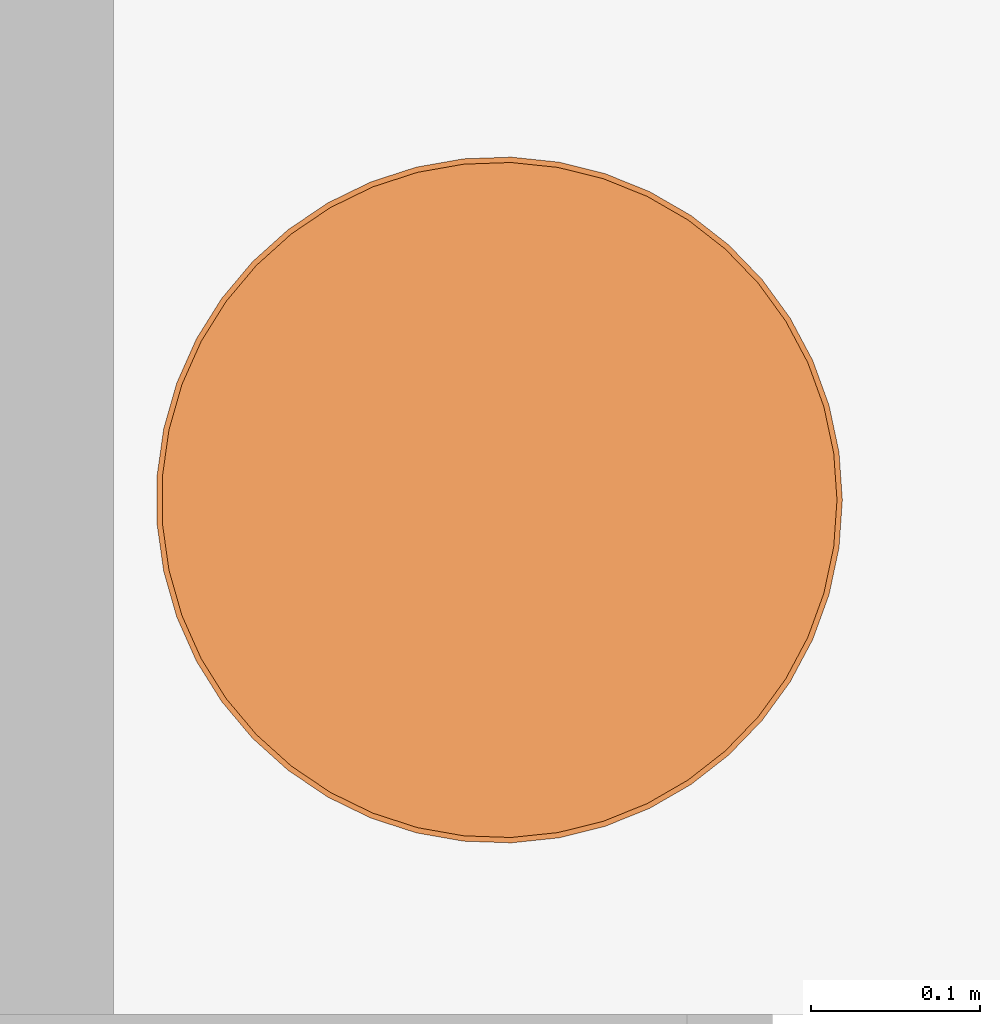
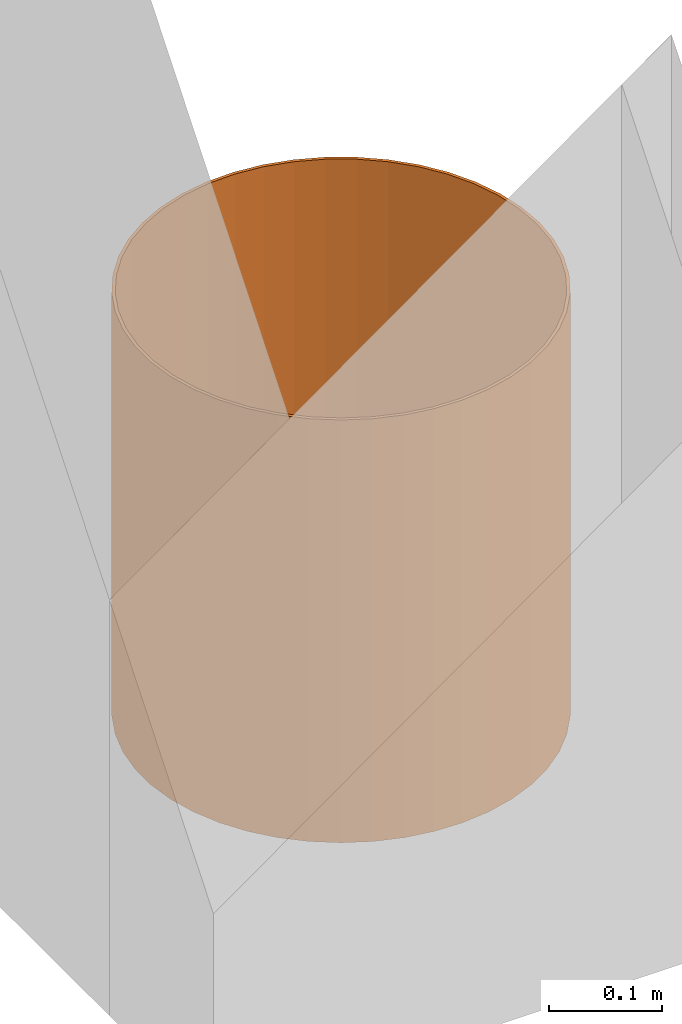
# One storey, part 100 of 142: 1 proxy.
"""IFC2X3 building model written with IfcOpenShell, lengths in feet."""

from ifc_helpers import new_model, entity, si_unit, converted_unit, derived_unit, direction, frame, frame_2d, origin, place, context, subcontext, project, spatial, circle, hollow_circle, extrude, source, transform, mapped, type_object, type_shapes, element, save


model = new_model("IFC2X3")

# Units and contexts
model_context = context("Model", 3, precision=0.0001, world=origin(), true_north=direction((6.12303176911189e-17, 1.0)))
body_context = subcontext(model_context, "Body", "Model", "MODEL_VIEW")
ifc_project = project(units=[converted_unit("LENGTHUNIT", "FOOT", entity("IfcRatioMeasure", 0.3048), si_unit("LENGTHUNIT", "METRE"), dimensions=[1, 0, 0, 0, 0, 0, 0]), converted_unit("AREAUNIT", "SQUARE FOOT", entity("IfcRatioMeasure", 0.09290304), si_unit("AREAUNIT", "SQUARE_METRE"), dimensions=[2, 0, 0, 0, 0, 0, 0]), converted_unit("VOLUMEUNIT", "CUBIC FOOT", entity("IfcRatioMeasure", 0.028316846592), si_unit("VOLUMEUNIT", "CUBIC_METRE"), dimensions=[3, 0, 0, 0, 0, 0, 0]), converted_unit("PLANEANGLEUNIT", "DEGREE", entity("IfcRatioMeasure", 0.0174532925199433), si_unit("PLANEANGLEUNIT", "RADIAN"), dimensions=[0, 0, 0, 0, 0, 0, 0]), si_unit("MASSUNIT", "GRAM", prefix="KILO"), derived_unit("MASSDENSITYUNIT", [(si_unit("MASSUNIT", "GRAM", prefix="KILO"), 1), (si_unit("LENGTHUNIT", "METRE"), -3)]), si_unit("TIMEUNIT", "SECOND"), si_unit("FREQUENCYUNIT", "HERTZ"), si_unit("THERMODYNAMICTEMPERATUREUNIT", "DEGREE_CELSIUS"), derived_unit("THERMALTRANSMITTANCEUNIT", [(si_unit("MASSUNIT", "GRAM", prefix="KILO"), 1), (si_unit("THERMODYNAMICTEMPERATUREUNIT", "KELVIN"), -1), (si_unit("TIMEUNIT", "SECOND"), -3)]), derived_unit("VOLUMETRICFLOWRATEUNIT", [(si_unit("LENGTHUNIT", "METRE"), 3), (si_unit("TIMEUNIT", "SECOND"), -1)]), si_unit("ELECTRICCURRENTUNIT", "AMPERE"), si_unit("ELECTRICVOLTAGEUNIT", "VOLT"), si_unit("POWERUNIT", "WATT"), si_unit("FORCEUNIT", "NEWTON"), si_unit("ILLUMINANCEUNIT", "LUX"), si_unit("LUMINOUSFLUXUNIT", "LUMEN"), si_unit("LUMINOUSINTENSITYUNIT", "CANDELA"), derived_unit("USERDEFINED", [(si_unit("MASSUNIT", "GRAM", prefix="KILO"), -1), (si_unit("LENGTHUNIT", "METRE"), -2), (si_unit("TIMEUNIT", "SECOND"), 3), (si_unit("LUMINOUSFLUXUNIT", "LUMEN"), 1)]), derived_unit("LINEARVELOCITYUNIT", [(si_unit("LENGTHUNIT", "METRE"), 1), (si_unit("TIMEUNIT", "SECOND"), -1)]), si_unit("PRESSUREUNIT", "PASCAL"), derived_unit("USERDEFINED", [(si_unit("LENGTHUNIT", "METRE"), -2), (si_unit("MASSUNIT", "GRAM", prefix="KILO"), 1), (si_unit("TIMEUNIT", "SECOND"), -2)])], contexts=[model_context])

# Site, building, storey, space
site_placement = place(None, origin())
site = spatial("IfcSite", under=ifc_project, at=site_placement, Name="Default", CompositionType="ELEMENT")
building_placement = place(site_placement, origin())
building = spatial("IfcBuilding", under=site, at=building_placement, Name="OUTPATIENT / PACT CLINIC (Ch. 265)", CompositionType="ELEMENT")
storey_placement = place(building_placement, origin())
storey = spatial("IfcBuildingStorey", under=building, at=storey_placement, Name="LEVEL 1", CompositionType="ELEMENT", Elevation=0.0)
space_placement = place(storey_placement, origin())
space = spatial("IfcSpace", under=storey, at=space_placement, Name="UCCL1", CompositionType="ELEMENT", InteriorOrExteriorSpace="INTERNAL")

# Proxy
building_element_proxy_type = type_object("IfcBuildingElementProxyType", Name="F2000 - Basket, Wastepaper", PredefinedType="NOTDEFINED")
shared_shape = source(origin(), body_context, "Body", "SweptSolid", [
    extrude(circle(Radius=0.666666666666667, at=frame_2d((0.0, -1.07702971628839e-15), x_axis=(1.0, 0.0))), origin(), (0.0, 0.0, 1.0), 0.0104166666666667),
    extrude(hollow_circle(Radius=0.666666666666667, WallThickness=0.0104166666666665, at=frame_2d((0.0, -1.07702971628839e-15), x_axis=(1.0, 0.0))), frame((0.0, 0.0, 0.0104166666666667)), (0.0, 0.0, 1.0), 1.48958333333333),
])
type_shapes(building_element_proxy_type, [shared_shape])
proxy_placement = place(space_placement, frame((391.713449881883, -902.628851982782, 0.0)))
element("IfcBuildingElementProxy", 1, at=proxy_placement, inside=space, type_object=building_element_proxy_type, Name="F2000 - Basket, Wastepaper:F2000 - Basket, Wastepaper", ObjectType="F2000 - Basket, Wastepaper", context=body_context, shape_type="MappedRepresentation", body=[
    mapped(shared_shape, transform((0.0, 0.0, 0.0), scale=1.0)),
])

save(model, "model.ifc")
